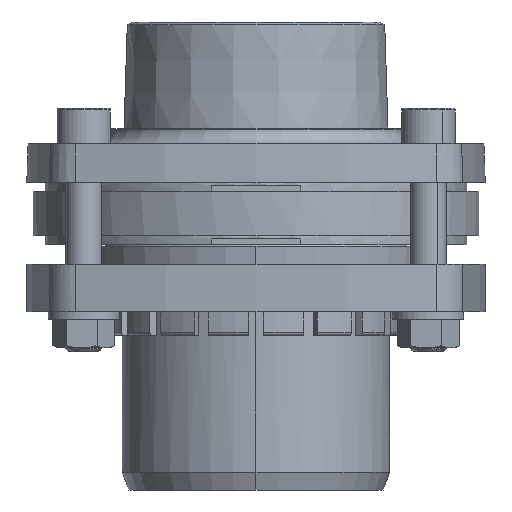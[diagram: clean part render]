
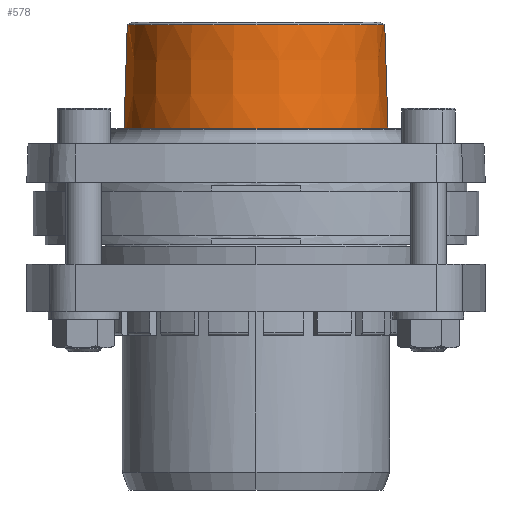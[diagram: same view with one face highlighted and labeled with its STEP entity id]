
A CAD part, front view. The second image highlights one B-rep face of the part: STEP entity #578.
In plain terms, the highlighted conical face has half-angle 1.788 degrees and reference radius 44.421 mm.
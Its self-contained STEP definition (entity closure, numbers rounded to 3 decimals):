
#578 = ADVANCED_FACE ( 'NONE', ( #2418 ), #2754, .T. ) ;
#1065 = EDGE_CURVE ( 'NONE', #11281, #11307, #1560, .T. ) ;
#1067 = EDGE_CURVE ( 'NONE', #11280, #11332, #1569, .T. ) ;
#1560 = LINE ( 'NONE', #1567, #3047 ) ;
#1565 = CARTESIAN_POINT ( 'NONE',  ( -44.898, -1.979, 35.214 ) ) ;
#1567 = CARTESIAN_POINT ( 'NONE',  ( 43.943, -1.979, 35.214 ) ) ;
#1568 = DIRECTION ( 'NONE',  ( 0.031, 0., -1. ) ) ;
#1569 = LINE ( 'NONE', #1565, #3049 ) ;
#1573 = DIRECTION ( 'NONE',  ( -0.031, 0., -1. ) ) ;
#2416 = DIRECTION ( 'NONE',  ( -1., 0., 0. ) ) ;
#2418 = FACE_OUTER_BOUND ( 'NONE', #6645, .T. ) ;
#2419 = DIRECTION ( 'NONE',  ( 0., 0., -1. ) ) ;
#2421 = CARTESIAN_POINT ( 'NONE',  ( -0.477, -1.979, 35.214 ) ) ;
#2754 = CONICAL_SURFACE ( 'NONE', #2755, 44.421, 0.031 ) ;
#2755 = AXIS2_PLACEMENT_3D ( 'NONE', #2421, #2419, #2416 ) ;
#3047 = VECTOR ( 'NONE', #1568, 1000. ) ;
#3049 = VECTOR ( 'NONE', #1573, 1000. ) ;
#5737 = ORIENTED_EDGE ( 'NONE', *, *, #1065, .F. ) ;
#5738 = ORIENTED_EDGE ( 'NONE', *, *, #14771, .T. ) ;
#5739 = ORIENTED_EDGE ( 'NONE', *, *, #1067, .T. ) ;
#5740 = ORIENTED_EDGE ( 'NONE', *, *, #14770, .F. ) ;
#6645 = EDGE_LOOP ( 'NONE', ( #5737, #5738, #5739, #5740 ) ) ;
#8980 = CARTESIAN_POINT ( 'NONE',  ( -43.806, -1.979, 70.214 ) ) ;
#8981 = CARTESIAN_POINT ( 'NONE',  ( 42.851, -1.979, 70.214 ) ) ;
#9007 = CARTESIAN_POINT ( 'NONE',  ( 43.943, -1.979, 35.214 ) ) ;
#9032 = CARTESIAN_POINT ( 'NONE',  ( -44.898, -1.979, 35.214 ) ) ;
#11280 = VERTEX_POINT ( 'NONE', #8980 ) ;
#11281 = VERTEX_POINT ( 'NONE', #8981 ) ;
#11307 = VERTEX_POINT ( 'NONE', #9007 ) ;
#11332 = VERTEX_POINT ( 'NONE', #9032 ) ;
#13463 = CARTESIAN_POINT ( 'NONE',  ( -0.477, -1.979, 35.214 ) ) ;
#13464 = DIRECTION ( 'NONE',  ( 0., 0., -1. ) ) ;
#13465 = DIRECTION ( 'NONE',  ( -1., 0., 0. ) ) ;
#13466 = CARTESIAN_POINT ( 'NONE',  ( -0.477, -1.979, 70.214 ) ) ;
#13467 = DIRECTION ( 'NONE',  ( 0., 0., -1. ) ) ;
#13468 = DIRECTION ( 'NONE',  ( 1., 0., 0. ) ) ;
#13979 = CIRCLE ( 'NONE', #13982, 44.421 ) ;
#13981 = CIRCLE ( 'NONE', #13984, 43.328 ) ;
#13982 = AXIS2_PLACEMENT_3D ( 'NONE', #13463, #13464, #13465 ) ;
#13984 = AXIS2_PLACEMENT_3D ( 'NONE', #13466, #13467, #13468 ) ;
#14770 = EDGE_CURVE ( 'NONE', #11307, #11332, #13979, .T. ) ;
#14771 = EDGE_CURVE ( 'NONE', #11281, #11280, #13981, .T. ) ;
